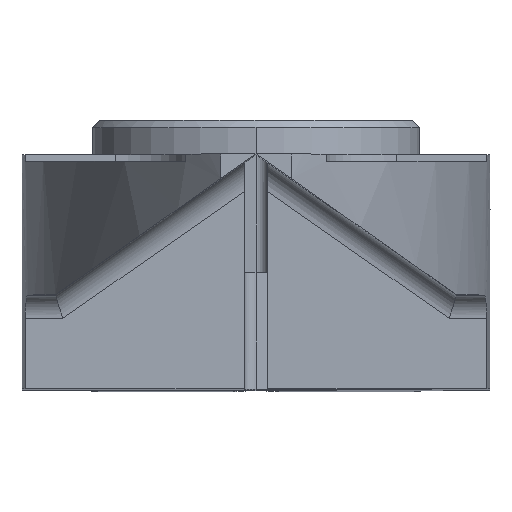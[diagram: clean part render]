
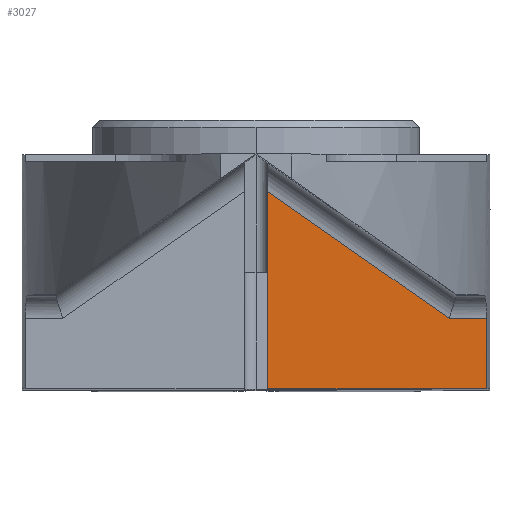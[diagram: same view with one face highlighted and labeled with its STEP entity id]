
A CAD part, top view. The second image highlights one B-rep face of the part: STEP entity #3027.
In plain terms, the highlighted planar face has unit normal (0, 0, 1).
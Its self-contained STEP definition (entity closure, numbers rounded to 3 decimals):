
#21 = VECTOR ( 'NONE', #3513, 1000. ) ;
#108 = CARTESIAN_POINT ( 'NONE',  ( 0.5, 8.429, 28. ) ) ;
#266 = LINE ( 'NONE', #4155, #1205 ) ;
#350 = EDGE_LOOP ( 'NONE', ( #2542, #924, #2462, #2360, #4455 ) ) ;
#482 = VERTEX_POINT ( 'NONE', #4276 ) ;
#504 = VECTOR ( 'NONE', #2799, 1000. ) ;
#551 = VECTOR ( 'NONE', #3689, 1000. ) ;
#594 = CARTESIAN_POINT ( 'NONE',  ( 5.221, 0., 28. ) ) ;
#622 = DIRECTION ( 'NONE',  ( -0.819, 0.574, 0. ) ) ;
#656 = LINE ( 'NONE', #4034, #551 ) ;
#899 = EDGE_CURVE ( 'NONE', #1353, #1982, #4044, .T. ) ;
#924 = ORIENTED_EDGE ( 'NONE', *, *, #1699, .F. ) ;
#958 = LINE ( 'NONE', #3321, #21 ) ;
#987 = DIRECTION ( 'NONE',  ( 0., -1., 0. ) ) ;
#1096 = LINE ( 'NONE', #3818, #3800 ) ;
#1157 = CARTESIAN_POINT ( 'NONE',  ( 0.5, 0., 28. ) ) ;
#1189 = CARTESIAN_POINT ( 'NONE',  ( 9.857, 0., 28. ) ) ;
#1205 = VECTOR ( 'NONE', #622, 1000. ) ;
#1329 = AXIS2_PLACEMENT_3D ( 'NONE', #3951, #4310, #2206 ) ;
#1353 = VERTEX_POINT ( 'NONE', #1189 ) ;
#1699 = EDGE_CURVE ( 'NONE', #1982, #3667, #958, .T. ) ;
#1982 = VERTEX_POINT ( 'NONE', #1157 ) ;
#2098 = EDGE_CURVE ( 'NONE', #482, #3262, #656, .T. ) ;
#2206 = DIRECTION ( 'NONE',  ( 1., 0., 0. ) ) ;
#2360 = ORIENTED_EDGE ( 'NONE', *, *, #4214, .F. ) ;
#2462 = ORIENTED_EDGE ( 'NONE', *, *, #899, .F. ) ;
#2542 = ORIENTED_EDGE ( 'NONE', *, *, #4153, .T. ) ;
#2661 = CARTESIAN_POINT ( 'NONE',  ( 9.857, 3., 28. ) ) ;
#2799 = DIRECTION ( 'NONE',  ( -1., 0., 0. ) ) ;
#3027 = ADVANCED_FACE ( 'NONE', ( #3586 ), #3602, .T. ) ;
#3262 = VERTEX_POINT ( 'NONE', #2661 ) ;
#3321 = CARTESIAN_POINT ( 'NONE',  ( 0.5, 5., 28. ) ) ;
#3513 = DIRECTION ( 'NONE',  ( 0., 1., 0. ) ) ;
#3586 = FACE_OUTER_BOUND ( 'NONE', #350, .T. ) ;
#3602 = PLANE ( 'NONE',  #1329 ) ;
#3667 = VERTEX_POINT ( 'NONE', #108 ) ;
#3689 = DIRECTION ( 'NONE',  ( 1., 0., 0. ) ) ;
#3800 = VECTOR ( 'NONE', #987, 1000. ) ;
#3818 = CARTESIAN_POINT ( 'NONE',  ( 9.857, 5., 28. ) ) ;
#3951 = CARTESIAN_POINT ( 'NONE',  ( 0.5, 0., 28. ) ) ;
#4034 = CARTESIAN_POINT ( 'NONE',  ( 9.055, 3., 28. ) ) ;
#4044 = LINE ( 'NONE', #594, #504 ) ;
#4153 = EDGE_CURVE ( 'NONE', #482, #3667, #266, .T. ) ;
#4155 = CARTESIAN_POINT ( 'NONE',  ( 8.254, 3., 28. ) ) ;
#4214 = EDGE_CURVE ( 'NONE', #3262, #1353, #1096, .T. ) ;
#4276 = CARTESIAN_POINT ( 'NONE',  ( 8.254, 3., 28. ) ) ;
#4310 = DIRECTION ( 'NONE',  ( 0., 0., 1. ) ) ;
#4455 = ORIENTED_EDGE ( 'NONE', *, *, #2098, .F. ) ;
